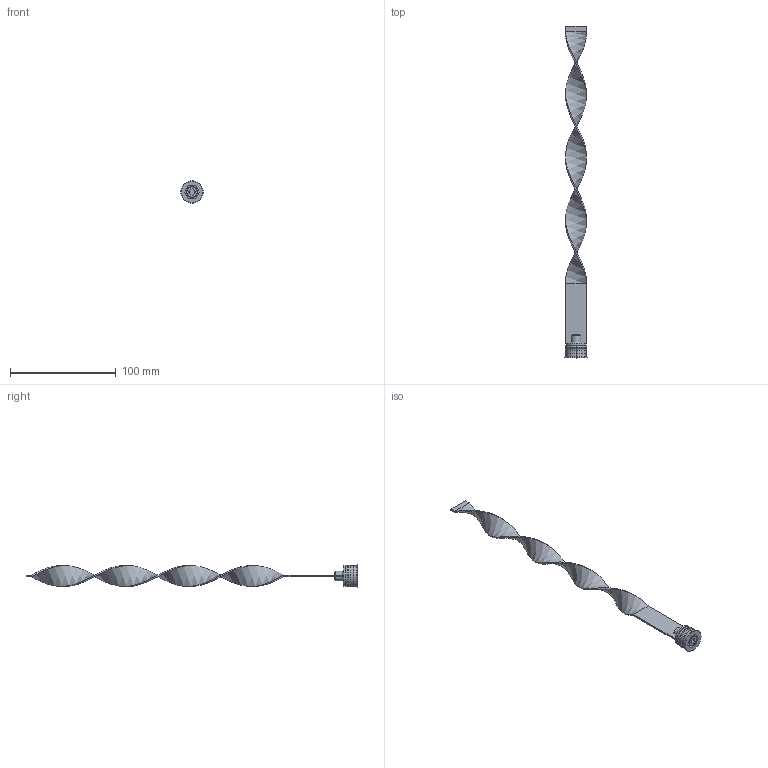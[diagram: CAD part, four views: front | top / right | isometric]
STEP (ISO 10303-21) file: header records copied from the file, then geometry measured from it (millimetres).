
FILE_DESCRIPTION (( 'STEP AP203' ), '1' );
FILE_NAME ('RLS-20Fx300.STEP', '2015-12-10T14:30:16', ( 'Balzi' ), ( '' ), 'SwSTEP 2.0', 'SolidWorks 2015', '' );
FILE_SCHEMA (( 'CONFIG_CONTROL_DESIGN' ));
Length unit declared in the file: millimetre
Products named in the file (1): RLS-20Fx300
Bounding box: 21.5 x 314 x 21.5 mm (x, y, z)
Volume: 13376.6 mm3; surface area: 15474 mm2
Topology: 1 solids, 1 shells, 83 faces, 193 edges, 117 vertices
Faces by surface type: plane 35, cone 19, cylinder 17, torus 8, bspline 4
Entity records: 4141 total; most frequent: CARTESIAN_POINT 2176, DIRECTION 406, ORIENTED_EDGE 386, EDGE_CURVE 193, AXIS2_PLACEMENT_3D 151, VERTEX_POINT 117, LINE 104, VECTOR 104
